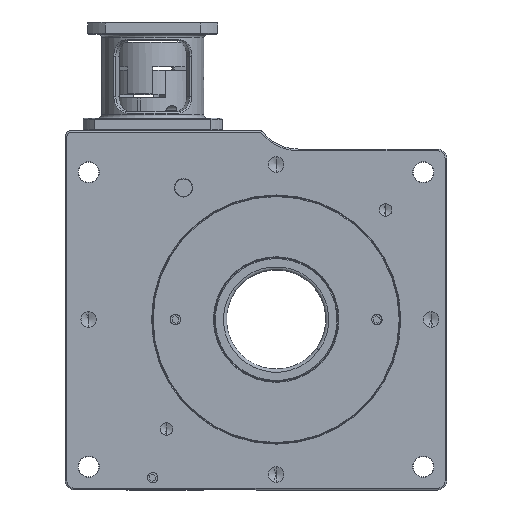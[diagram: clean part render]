
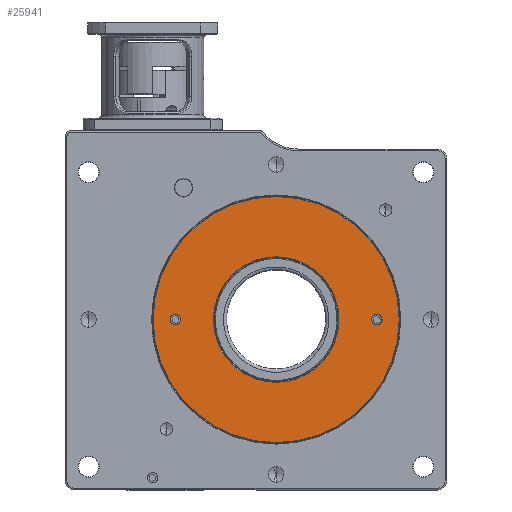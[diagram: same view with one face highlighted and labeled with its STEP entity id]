
A CAD part, front view. The second image highlights one B-rep face of the part: STEP entity #25941.
In plain terms, the highlighted planar face has unit normal (0, -1, 0).
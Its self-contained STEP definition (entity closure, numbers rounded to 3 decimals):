
#649 = DIRECTION ( 'NONE',  ( 0., 0., -1. ) ) ;
#1505 = DIRECTION ( 'NONE',  ( 0., -1., 0. ) ) ;
#1587 = VERTEX_POINT ( 'NONE', #50317 ) ;
#2574 = ORIENTED_EDGE ( 'NONE', *, *, #59124, .F. ) ;
#2712 = DIRECTION ( 'NONE',  ( 0., -1., 0. ) ) ;
#4202 = CARTESIAN_POINT ( 'NONE',  ( 32.5, 0.2, -1.65 ) ) ;
#4313 = CIRCLE ( 'NONE', #7792, 20.25 ) ;
#4884 = EDGE_LOOP ( 'NONE', ( #36890, #38809 ) ) ;
#5743 = CIRCLE ( 'NONE', #41743, 39.7 ) ;
#6174 = DIRECTION ( 'NONE',  ( 0., -1., 0. ) ) ;
#6819 = CARTESIAN_POINT ( 'NONE',  ( 0., 0.2, 0. ) ) ;
#7792 = AXIS2_PLACEMENT_3D ( 'NONE', #9663, #44590, #14688 ) ;
#8022 = EDGE_CURVE ( 'NONE', #1587, #48461, #57305, .T. ) ;
#8719 = EDGE_CURVE ( 'NONE', #46318, #54421, #5743, .T. ) ;
#9663 = CARTESIAN_POINT ( 'NONE',  ( 0., 0.2, 0. ) ) ;
#9918 = AXIS2_PLACEMENT_3D ( 'NONE', #36074, #6174, #41061 ) ;
#11830 = DIRECTION ( 'NONE',  ( 0., 0., -1. ) ) ;
#14688 = DIRECTION ( 'NONE',  ( 0., 0., -1. ) ) ;
#15938 = AXIS2_PLACEMENT_3D ( 'NONE', #17042, #51909, #22051 ) ;
#16725 = CIRCLE ( 'NONE', #54381, 1.65 ) ;
#17042 = CARTESIAN_POINT ( 'NONE',  ( 26.05, 0.2, 0. ) ) ;
#17613 = CARTESIAN_POINT ( 'NONE',  ( 32.5, 0.2, 1.65 ) ) ;
#18232 = CARTESIAN_POINT ( 'NONE',  ( -32.5, 0.2, 0. ) ) ;
#21017 = EDGE_CURVE ( 'NONE', #54421, #46318, #36899, .T. ) ;
#22051 = DIRECTION ( 'NONE',  ( 0., 0., -1. ) ) ;
#23233 = DIRECTION ( 'NONE',  ( 0., 0., -1. ) ) ;
#25039 = DIRECTION ( 'NONE',  ( 0., -1., 0. ) ) ;
#25735 = EDGE_CURVE ( 'NONE', #61846, #28149, #31092, .T. ) ;
#25941 = ADVANCED_FACE ( 'NONE', ( #63048, #64605, #38123, #49777 ), #51683, .T. ) ;
#26543 = AXIS2_PLACEMENT_3D ( 'NONE', #31434, #1505, #36442 ) ;
#28149 = VERTEX_POINT ( 'NONE', #38233 ) ;
#28260 = VERTEX_POINT ( 'NONE', #4202 ) ;
#29039 = ORIENTED_EDGE ( 'NONE', *, *, #25735, .T. ) ;
#30567 = DIRECTION ( 'NONE',  ( 0., 1., 0. ) ) ;
#31092 = CIRCLE ( 'NONE', #40580, 20.25 ) ;
#31422 = ORIENTED_EDGE ( 'NONE', *, *, #49128, .F. ) ;
#31434 = CARTESIAN_POINT ( 'NONE',  ( 32.5, 0.2, 0. ) ) ;
#31596 = VERTEX_POINT ( 'NONE', #17613 ) ;
#32612 = CARTESIAN_POINT ( 'NONE',  ( 32.5, 0.2, 0. ) ) ;
#35507 = EDGE_LOOP ( 'NONE', ( #44469, #29039 ) ) ;
#36074 = CARTESIAN_POINT ( 'NONE',  ( 0., 0.2, 0. ) ) ;
#36376 = CARTESIAN_POINT ( 'NONE',  ( -32.5, 0.2, 1.65 ) ) ;
#36442 = DIRECTION ( 'NONE',  ( 0., 0., -1. ) ) ;
#36890 = ORIENTED_EDGE ( 'NONE', *, *, #8719, .T. ) ;
#36899 = CIRCLE ( 'NONE', #9918, 39.7 ) ;
#37570 = AXIS2_PLACEMENT_3D ( 'NONE', #54924, #25039, #59914 ) ;
#37622 = DIRECTION ( 'NONE',  ( 0., 0., -1. ) ) ;
#38123 = FACE_BOUND ( 'NONE', #35507, .T. ) ;
#38233 = CARTESIAN_POINT ( 'NONE',  ( 0., 0.2, -20.25 ) ) ;
#38809 = ORIENTED_EDGE ( 'NONE', *, *, #21017, .T. ) ;
#39433 = EDGE_CURVE ( 'NONE', #28149, #61846, #4313, .T. ) ;
#39917 = CARTESIAN_POINT ( 'NONE',  ( 0., 0.2, 39.7 ) ) ;
#40580 = AXIS2_PLACEMENT_3D ( 'NONE', #60431, #30567, #649 ) ;
#41061 = DIRECTION ( 'NONE',  ( 0., 0., -1. ) ) ;
#41211 = ORIENTED_EDGE ( 'NONE', *, *, #60449, .F. ) ;
#41658 = CIRCLE ( 'NONE', #44742, 1.65 ) ;
#41724 = DIRECTION ( 'NONE',  ( 0., -1., 0. ) ) ;
#41743 = AXIS2_PLACEMENT_3D ( 'NONE', #6819, #41724, #11830 ) ;
#44469 = ORIENTED_EDGE ( 'NONE', *, *, #39433, .T. ) ;
#44590 = DIRECTION ( 'NONE',  ( 0., 1., 0. ) ) ;
#44669 = ORIENTED_EDGE ( 'NONE', *, *, #8022, .F. ) ;
#44742 = AXIS2_PLACEMENT_3D ( 'NONE', #32612, #2712, #37622 ) ;
#46318 = VERTEX_POINT ( 'NONE', #39917 ) ;
#46548 = EDGE_LOOP ( 'NONE', ( #2574, #31422 ) ) ;
#48461 = VERTEX_POINT ( 'NONE', #36376 ) ;
#49128 = EDGE_CURVE ( 'NONE', #31596, #28260, #54909, .T. ) ;
#49777 = FACE_OUTER_BOUND ( 'NONE', #4884, .T. ) ;
#50317 = CARTESIAN_POINT ( 'NONE',  ( -32.5, 0.2, -1.65 ) ) ;
#51683 = PLANE ( 'NONE',  #15938 ) ;
#51909 = DIRECTION ( 'NONE',  ( 0., -1., 0. ) ) ;
#52935 = EDGE_LOOP ( 'NONE', ( #44669, #41211 ) ) ;
#53091 = DIRECTION ( 'NONE',  ( 0., -1., 0. ) ) ;
#54381 = AXIS2_PLACEMENT_3D ( 'NONE', #18232, #53091, #23233 ) ;
#54421 = VERTEX_POINT ( 'NONE', #62697 ) ;
#54909 = CIRCLE ( 'NONE', #26543, 1.65 ) ;
#54924 = CARTESIAN_POINT ( 'NONE',  ( -32.5, 0.2, 0. ) ) ;
#57305 = CIRCLE ( 'NONE', #37570, 1.65 ) ;
#59124 = EDGE_CURVE ( 'NONE', #28260, #31596, #41658, .T. ) ;
#59914 = DIRECTION ( 'NONE',  ( 0., 0., -1. ) ) ;
#60431 = CARTESIAN_POINT ( 'NONE',  ( 0., 0.2, 0. ) ) ;
#60449 = EDGE_CURVE ( 'NONE', #48461, #1587, #16725, .T. ) ;
#61846 = VERTEX_POINT ( 'NONE', #62705 ) ;
#62697 = CARTESIAN_POINT ( 'NONE',  ( 0., 0.2, -39.7 ) ) ;
#62705 = CARTESIAN_POINT ( 'NONE',  ( 0., 0.2, 20.25 ) ) ;
#63048 = FACE_BOUND ( 'NONE', #52935, .T. ) ;
#64605 = FACE_BOUND ( 'NONE', #46548, .T. ) ;
